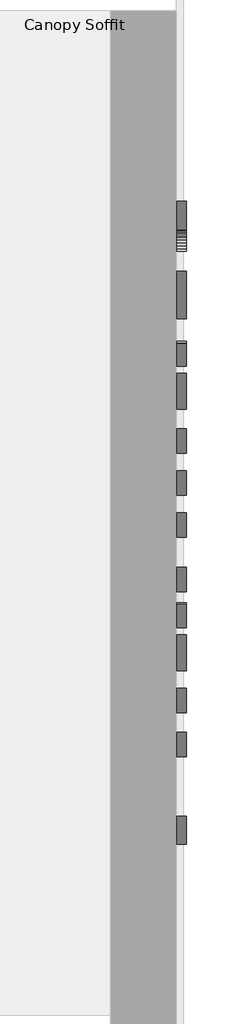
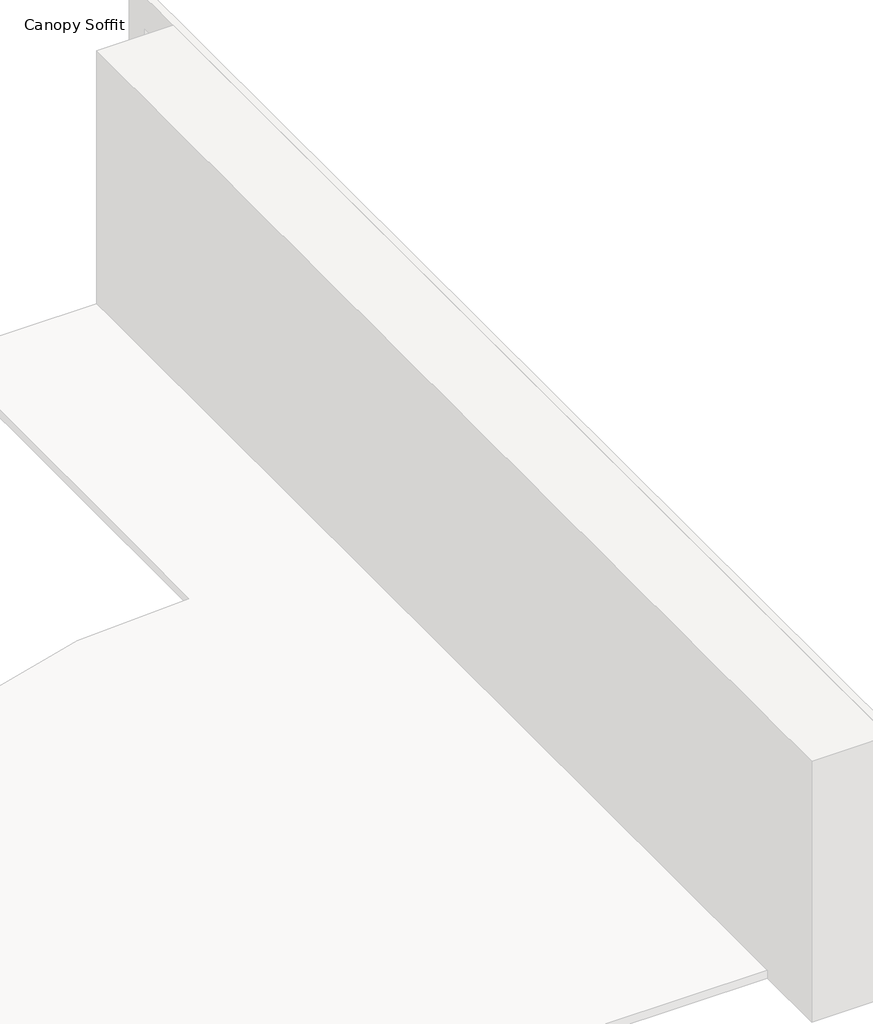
# One storey, part 2 of 2: 1 proxy.
"""IFC4 building model written with IfcOpenShell, lengths in millimetres."""

from ifc_helpers import new_model, si_unit, frame, origin, place, context, project, spatial, polyline, outline, extrude, element, save

model = new_model("IFC4")

# Units and contexts
model_context = context("Model", 3, world=origin())
ifc_project = project(units=[si_unit("LENGTHUNIT", "METRE", prefix="MILLI")], contexts=[model_context])

# Site, building, storey
site = spatial("IfcSite", under=ifc_project)
building = spatial("IfcBuilding", under=site)
storey = spatial("IfcBuildingStorey", under=building, Name="Canopy Soffit", Elevation=4572.0)

# Proxy
placement = place(None, origin())
element("IfcBuildingElementProxy", 1, Name="big", ObjectType="big", at=placement, inside=storey, context=model_context, shape_type="SweptSolid", body=[
    extrude(outline(polyline([(-13815.1592302, 7081.4539876), (-13114.5433623, 7081.4539876), (-13059.1440865, 7079.584566), (-13007.3325232, 7073.976301), (-12959.1086725, 7064.6291927), (-12914.4725344, 7051.5432411), (-12873.4241089, 7034.7184463), (-12835.9633959, 7014.1548081), (-12802.0903954, 6989.8523266), (-12771.8051075, 6961.8110018), (-12745.0943904, 6930.3265242), (-12721.9451022, 6895.6945846), (-12702.357243, 6857.9151828), (-12686.3308127, 6816.988319), (-12673.8658114, 6772.913993), (-12664.962239, 6725.6922049), (-12659.6200956, 6675.3229547), (-12657.8393811, 6621.8062423), (-12659.76137, 6566.5876663), (-12665.5273366, 6514.4771271), (-12675.137281, 6465.4746245), (-12688.5912031, 6419.5801586), (-12705.8891029, 6376.7937294), (-12727.0309805, 6337.115337), (-12752.0168358, 6300.5449812), (-12780.8466689, 6267.0826621), (-12813.6190432, 6237.1686302), (-12850.4325223, 6211.2431359), (-12891.2871063, 6189.3061792), (-12936.182795, 6171.35776), (-12985.1195886, 6157.3978785), (-13038.097487, 6147.4265345), (-13095.1164901, 6141.4437281), (-13156.1765981, 6139.4494593), (-13384.5285887, 6139.4494593), (-13384.5285887, 5708.8188178), (-13815.1592302, 5708.8188178), (-13815.1592302, 7081.4539876)]), holes=[polyline([(-13384.5285887, 6462.4224404), (-13289.9075981, 6462.4224404), (-13238.3391582, 6464.9982341), (-13195.0763387, 6472.725615), (-13160.1191394, 6485.6045831), (-13133.4675604, 6503.6351386), (-13113.7811376, 6525.6870861), (-13099.7194071, 6550.6302305), (-13091.2823687, 6578.4645719), (-13088.4700226, 6609.1901103), (-13090.9143982, 6639.1402821), (-13098.247525, 6666.7512128), (-13110.4694029, 6692.0229024), (-13127.5800321, 6714.9553508), (-13151.4455486, 6733.9978252), (-13183.9320887, 6747.5995926), (-13225.0396524, 6755.760653), (-13274.7682396, 6758.4810065), (-13384.5285887, 6758.4810065), (-13384.5285887, 6462.4224404)])]), frame((21878.1272279, 0.0, 0.0), z_axis=(1.0, 0.0, 0.0), x_axis=(0.0, 1.0, 0.0)), (0.0, 0.0, 1.0), 152.4),
    extrude(outline(polyline([(-12469.4384755, 7081.4539876), (-12092.6366641, 7081.4539876), (-12092.6366641, 6582.2756952), (-12053.776349, 6619.5721356), (-12014.9948847, 6651.1387494), (-11976.2922712, 6676.9755365), (-11937.6685085, 6697.082497), (-11897.3363113, 6712.1692883), (-11853.5083941, 6722.9455678), (-11806.184757, 6729.4113355), (-11755.3654, 6731.5665914), (-11681.4953183, 6725.6264959), (-11647.6650288, 6718.2013765), (-11615.9045733, 6707.8062093), (-11586.2139521, 6694.4409944), (-11558.593165, 6678.1057317), (-11533.0422121, 6658.8004213), (-11509.5610934, 6636.5250631), (-11488.5177793, 6611.1745227), (-11470.2802405, 6582.6436657), (-11454.8484769, 6550.932492), (-11442.2224884, 6516.0410018), (-11432.4022752, 6477.9691949), (-11425.3878372, 6436.7170713), (-11419.7762868, 6344.6718744), (-11419.7762868, 5708.8188178), (-11796.5780981, 5708.8188178), (-11796.5780981, 6262.2464782), (-11798.8122048, 6306.1006789), (-11805.514525, 6343.0422907), (-11816.6850586, 6373.0713134), (-11832.3238057, 6396.187747), (-11851.9839448, 6413.3903688), (-11875.2186547, 6425.6779558), (-11902.0279354, 6433.050508), (-11932.4117868, 6435.5080253), (-11966.4622016, 6432.1962907), (-11997.1220309, 6422.2610867), (-12024.3912747, 6405.7024133), (-12048.269933, 6382.5202706), (-12067.6803779, 6350.743388), (-12081.5449814, 6308.4004947), (-12089.8637434, 6255.4915908), (-12092.6366641, 6192.0166763), (-12092.6366641, 5708.8188178), (-12469.4384755, 5708.8188178), (-12469.4384755, 7081.4539876)])), frame((21878.1272279, 0.0, 0.0), z_axis=(1.0, 0.0, 0.0), x_axis=(0.0, 1.0, 0.0)), (0.0, 0.0, 1.0), 152.4),
    extrude(outline(polyline([(-10827.6591547, 6354.7647801), (-11204.460966, 6381.6791952), (-11193.2378652, 6433.4184785), (-11179.7543741, 6479.2965171), (-11164.0104926, 6519.313311), (-11146.0062207, 6553.4688603), (-11124.7690651, 6583.6818682), (-11099.3265321, 6611.8710383), (-11069.6786217, 6638.0363706), (-11035.825334, 6662.177865), (-11007.7412983, 6677.6720522), (-10974.794795, 6691.3526704), (-10894.3143858, 6713.2731999), (-10800.3767691, 6726.9932435), (-10698.9746075, 6731.5665914), (-10546.950216, 6726.7304074), (-10483.3964507, 6720.6851775), (-10428.1483057, 6712.2218555), (-10379.181943, 6699.9474104), (-10334.473525, 6682.4688107), (-10294.0230515, 6659.7860566), (-10257.8305226, 6631.899148), (-10235.1346267, 6608.4541692), (-10214.9882408, 6580.5935442), (-10197.3913649, 6548.317273), (-10182.3439991, 6511.6253555), (-10161.6850828, 6435.6131598), (-10156.5203537, 6398.9475259), (-10154.7987774, 6363.1755348), (-10154.7987774, 5921.6109121), (-10152.5909542, 5858.6353862), (-10145.9674849, 5811.0094876), (-10131.7743363, 5765.4862777), (-10106.8574755, 5708.8188178), (-10468.0993906, 5708.8188178), (-10496.4856877, 5783.8848036), (-10509.7326264, 5864.8383178), (-10545.8463045, 5822.4428573), (-10581.8548481, 5786.5131645), (-10617.7582573, 5757.0492394), (-10653.5565321, 5734.0510819), (-10704.5204489, 5711.2369098), (-10759.4269071, 5694.9410725), (-10818.2759065, 5685.1635702), (-10881.0674472, 5681.9044027), (-10961.8895433, 5686.9508555), (-11032.3558976, 5702.090214), (-11063.7056717, 5713.4447329), (-11092.4665103, 5727.3224782), (-11118.6384134, 5743.7234499), (-11142.2213811, 5762.647648), (-11181.2262561, 5805.3847954), (-11209.0868811, 5852.8529923), (-11225.8032561, 5905.0522388), (-11231.3753811, 5961.9825348), (-11227.353989, 6015.0228567), (-11215.2898127, 6063.1218603), (-11195.1828522, 6106.2795454), (-11167.0331075, 6144.4959121), (-11128.264785, 6177.9549457), (-11075.8815533, 6206.8406315), (-11009.8834124, 6231.1529693), (-10930.2703623, 6250.8919593), (-10759.6897432, 6287.0056374), (-10661.7570179, 6310.3980489), (-10598.4135215, 6330.0056209), (-10531.6005887, 6354.7647801), (-10533.2301724, 6382.3888526), (-10538.1189236, 6405.5447117), (-10546.2668422, 6424.2323573), (-10557.6739283, 6438.4517895), (-10573.1549737, 6448.9389493), (-10593.5247703, 6456.4297777), (-10618.783318, 6460.9242748), (-10648.930617, 6462.4224404), (-10688.3297461, 6460.7140059), (-10722.4195863, 6455.5887022), (-10751.2001376, 6447.0465295), (-10774.6714, 6435.0874876), (-10790.2838634, 6422.0245342), (-10804.3193104, 6404.2830985), (-10816.7777408, 6381.8631804), (-10827.6591547, 6354.7647801)]), holes=[polyline([(-10531.6005887, 6166.3638744), (-10607.1922467, 6146.1780631), (-10685.9379377, 6128.5154782), (-10775.3022066, 6105.1756338), (-10805.0026842, 6093.6634133), (-10824.7153906, 6082.2563272), (-10837.778344, 6070.0870165), (-10847.109025, 6057.1291975), (-10852.7074336, 6043.3828703), (-10854.5735698, 6028.8480348), (-10852.7205754, 6012.4076377), (-10847.1615922, 5997.5705407), (-10837.8966202, 5984.3367438), (-10824.9256594, 5972.706247), (-10808.3801279, 5963.2310062), (-10788.3914436, 5956.462977), (-10738.084617, 5951.0485536), (-10680.1029766, 5956.9360819), (-10626.4318481, 5974.5986669), (-10582.3805203, 6000.7245737), (-10565.953265, 6015.7193723), (-10553.2582821, 6032.0020678), (-10543.7830412, 6050.2034667), (-10537.015012, 6070.9543756), (-10531.6005887, 6120.1047235), (-10531.6005887, 6166.3638744)])]), frame((21878.1272279, 0.0, 0.0), z_axis=(1.0, 0.0, 0.0), x_axis=(0.0, 1.0, 0.0)), (0.0, 0.0, 1.0), 152.4),
    extrude(outline(polyline([(-9939.4834566, 6704.6521763), (-9588.3344472, 6704.6521763), (-9588.3344472, 6544.4272989), (-9562.2479657, 6593.6696394), (-9535.714663, 6634.5800761), (-9508.7345389, 6667.1586088), (-9481.3075934, 6691.4052376), (-9452.0407953, 6708.9758299), (-9419.5411134, 6721.5262529), (-9383.8085477, 6729.0565068), (-9344.8430981, 6731.5665914), (-9301.3700097, 6728.0445878), (-9255.899367, 6717.4785772), (-9208.43117, 6699.8685595), (-9158.9654189, 6675.2145348), (-9277.9775981, 6407.331997), (-9338.9555698, 6428.4640183), (-9385.6352585, 6435.5080253), (-9421.3546824, 6431.6180513), (-9452.8161618, 6419.9481291), (-9480.0196966, 6400.4982588), (-9502.9652868, 6373.2684404), (-9516.9613083, 6348.9101063), (-9529.0911936, 6319.7812972), (-9547.7525557, 6247.2122541), (-9558.9493729, 6155.5613113), (-9562.6816453, 6044.8284687), (-9562.6816453, 5708.8188178), (-9939.4834566, 5708.8188178), (-9939.4834566, 6704.6521763)])), frame((21878.1272279, 0.0, 0.0), z_axis=(1.0, 0.0, 0.0), x_axis=(0.0, 1.0, 0.0)), (0.0, 0.0, 1.0), 152.4),
    extrude(outline(polyline([(-9105.1365887, 6704.6521763), (-8753.9875792, 6704.6521763), (-8753.9875792, 6564.1925725), (-8715.8500633, 6606.3251969), (-8677.5548457, 6641.8869192), (-8639.1019265, 6670.8777394), (-8600.4913057, 6693.2976574), (-8559.7779961, 6710.040316), (-8515.0170108, 6721.9993579), (-8466.2083499, 6729.174783), (-8413.3520132, 6731.5665914), (-8357.5519124, 6728.9382305), (-8307.9021759, 6721.053148), (-8264.4028039, 6707.9113437), (-8227.0537962, 6689.5128178), (-8194.3307037, 6665.9101374), (-8164.7090769, 6637.1558697), (-8138.1889159, 6603.2500147), (-8114.7702207, 6564.1925725), (-8071.3759831, 6608.8878488), (-8029.9267325, 6645.8294605), (-7990.422469, 6675.0174077), (-7952.8631924, 6696.4516904), (-7914.1474371, 6711.8144596), (-7871.1737373, 6722.7878661), (-7823.9420928, 6729.3719101), (-7772.4525038, 6731.5665914), (-7697.715063, 6725.5870705), (-7663.5890829, 6718.1126693), (-7631.6249295, 6707.6485077), (-7601.8226029, 6694.1945856), (-7574.1821031, 6677.750903), (-7548.7034301, 6658.31746), (-7525.386584, 6635.8942565), (-7504.540397, 6610.2973073), (-7486.4737016, 6581.3426271), (-7471.1864978, 6549.0302159), (-7458.6787856, 6513.3600737), (-7448.950565, 6474.3322005), (-7442.001836, 6431.9465964), (-7436.4428528, 6337.1021952), (-7436.4428528, 5708.8188178), (-7813.2446641, 5708.8188178), (-7813.2446641, 6282.0117518), (-7814.8742479, 6313.8937689), (-7819.7629991, 6341.4127069), (-7827.9109177, 6364.568566), (-7839.3180038, 6383.3613461), (-7859.4249643, 6406.1755183), (-7881.8974495, 6422.4713555), (-7906.7354595, 6432.2488579), (-7933.9389943, 6435.5080253), (-7965.7421606, 6432.4328432), (-7994.2861594, 6423.2072966), (-8019.5709908, 6407.8313856), (-8041.5966547, 6386.3051103), (-8059.4432249, 6357.9713803), (-8072.190775, 6322.1731055), (-8079.8393051, 6278.910286), (-8082.3888151, 6228.1829216), (-8082.3888151, 5708.8188178), (-8459.1906264, 5708.8188178), (-8459.1906264, 6261.8259404), (-8461.0830462, 6317.2317871), (-8466.7603057, 6351.4004782), (-8483.3715462, 6385.5691692), (-8508.8140792, 6412.3784499), (-8541.1954849, 6429.7256315), (-8578.6233434, 6435.5080253), (-8609.9534047, 6432.3802759), (-8638.3397019, 6422.9970277), (-8663.7822349, 6407.3582807), (-8686.2810038, 6385.4640348), (-8704.6795297, 6356.4206474), (-8717.821334, 6319.3344758), (-8725.7064165, 6274.20552), (-8728.3347774, 6221.0337801), (-8728.3347774, 5708.8188178), (-9105.1365887, 5708.8188178), (-9105.1365887, 6704.6521763)])), frame((21878.1272279, 0.0, 0.0), z_axis=(1.0, 0.0, 0.0), x_axis=(0.0, 1.0, 0.0)), (0.0, 0.0, 1.0), 152.4),
    extrude(outline(polyline([(-6817.4113057, 6354.7647801), (-7194.213117, 6381.6791952), (-7182.9900162, 6433.4184785), (-7169.506525, 6479.2965171), (-7153.7626435, 6519.313311), (-7135.7583717, 6553.4688603), (-7114.521216, 6583.6818682), (-7089.078683, 6611.8710383), (-7059.4307726, 6638.0363706), (-7025.5774849, 6662.177865), (-6997.4934492, 6677.6720522), (-6964.546946, 6691.3526704), (-6884.0665368, 6713.2731999), (-6790.12892, 6726.9932435), (-6688.7267585, 6731.5665914), (-6536.702367, 6726.7304074), (-6473.1486016, 6720.6851775), (-6417.9004566, 6712.2218555), (-6368.934094, 6699.9474104), (-6324.2256759, 6682.4688107), (-6283.7752025, 6659.7860566), (-6247.5826736, 6631.899148), (-6224.8867776, 6608.4541692), (-6204.7403917, 6580.5935442), (-6187.1435159, 6548.317273), (-6172.09615, 6511.6253555), (-6151.4372337, 6435.6131598), (-6146.2725047, 6398.9475259), (-6144.5509283, 6363.1755348), (-6144.5509283, 5921.6109121), (-6142.3431052, 5858.6353862), (-6135.7196358, 5811.0094876), (-6121.5264873, 5765.4862777), (-6096.6096264, 5708.8188178), (-6457.8515415, 5708.8188178), (-6486.2378387, 5783.8848036), (-6499.4847774, 5864.8383178), (-6535.5984554, 5822.4428573), (-6571.6069991, 5786.5131645), (-6607.5104082, 5757.0492394), (-6643.308683, 5734.0510819), (-6694.2725999, 5711.2369098), (-6749.179058, 5694.9410725), (-6808.0280574, 5685.1635702), (-6870.8195981, 5681.9044027), (-6951.6416942, 5686.9508555), (-7022.1080486, 5702.090214), (-7053.4578226, 5713.4447329), (-7082.2186612, 5727.3224782), (-7108.3905644, 5743.7234499), (-7131.9735321, 5762.647648), (-7170.9784071, 5805.3847954), (-7198.8390321, 5852.8529923), (-7215.5554071, 5905.0522388), (-7221.1275321, 5961.9825348), (-7217.10614, 6015.0228567), (-7205.0419637, 6063.1218603), (-7184.9350032, 6106.2795454), (-7156.7852585, 6144.4959121), (-7118.016936, 6177.9549457), (-7065.6337042, 6206.8406315), (-6999.6355633, 6231.1529693), (-6920.0225132, 6250.8919593), (-6749.4418941, 6287.0056374), (-6651.5091689, 6310.3980489), (-6588.1656724, 6330.0056209), (-6521.3527396, 6354.7647801), (-6522.9823233, 6382.3888526), (-6527.8710745, 6405.5447117), (-6536.0189932, 6424.2323573), (-6547.4260792, 6438.4517895), (-6562.9071246, 6448.9389493), (-6583.2769212, 6456.4297777), (-6608.535469, 6460.9242748), (-6638.6827679, 6462.4224404), (-6678.081897, 6460.7140059), (-6712.1717373, 6455.5887022), (-6740.9522886, 6447.0465295), (-6764.4235509, 6435.0874876), (-6780.0360144, 6422.0245342), (-6794.0714613, 6404.2830985), (-6806.5298917, 6381.8631804), (-6817.4113057, 6354.7647801)]), holes=[polyline([(-6521.3527396, 6166.3638744), (-6596.9443976, 6146.1780631), (-6675.6900887, 6128.5154782), (-6765.0543575, 6105.1756338), (-6794.7548351, 6093.6634133), (-6814.4675415, 6082.2563272), (-6827.5304949, 6070.0870165), (-6836.8611759, 6057.1291975), (-6842.4595845, 6043.3828703), (-6844.3257207, 6028.8480348), (-6842.4727264, 6012.4076377), (-6836.9137432, 5997.5705407), (-6827.6487712, 5984.3367438), (-6814.6778104, 5972.706247), (-6798.1322788, 5963.2310062), (-6778.1435946, 5956.462977), (-6727.8367679, 5951.0485536), (-6669.8551276, 5956.9360819), (-6616.1839991, 5974.5986669), (-6572.1326712, 6000.7245737), (-6555.7054159, 6015.7193723), (-6543.010433, 6032.0020678), (-6533.5351922, 6050.2034667), (-6526.767163, 6070.9543756), (-6521.3527396, 6120.1047235), (-6521.3527396, 6166.3638744)])]), frame((21878.1272279, 0.0, 0.0), z_axis=(1.0, 0.0, 0.0), x_axis=(0.0, 1.0, 0.0)), (0.0, 0.0, 1.0), 152.4),
    extrude(outline(polyline([(-5202.5464, 6085.6206291), (-4825.7445887, 6058.706214), (-4842.8289342, 6003.0375312), (-4864.6443292, 5951.2588225), (-4891.1907738, 5903.3700878), (-4922.4682679, 5859.3713272), (-4958.4373861, 5819.6567948), (-4999.0587031, 5784.6207447), (-5044.3322187, 5754.2631769), (-5094.257933, 5728.5840914), (-5150.044892, 5708.1617276), (-5212.9021417, 5693.5743249), (-5282.8296821, 5684.8218832), (-5359.8275132, 5681.9044027), (-5434.3678269, 5683.7705389), (-5502.3898057, 5689.3689475), (-5563.8934495, 5698.6996285), (-5618.8787585, 5711.7625819), (-5668.8044728, 5728.9783455), (-5715.1293328, 5750.7674569), (-5757.8533384, 5777.1299163), (-5796.9764896, 5808.0657235), (-5832.2753758, 5842.7469449), (-5863.5265863, 5880.3456468), (-5890.7301211, 5920.8618293), (-5913.8859802, 5964.2954923), (-5932.3764988, 6012.854459), (-5945.584012, 6068.7465525), (-5953.50852, 6131.9717727), (-5956.1500226, 6202.5301197), (-5952.9434224, 6276.6761792), (-5943.3236217, 6344.3564711), (-5927.2906205, 6405.5709953), (-5904.8444189, 6460.3197518), (-5884.4089133, 6497.1825127), (-5860.5302549, 6532.0740029), (-5833.2084439, 6564.9942226), (-5802.4434802, 6595.9431716), (-5769.7335294, 6624.0009236), (-5736.5767573, 6648.2475525), (-5702.9731639, 6668.6830581), (-5668.9227491, 6685.3074404), (-5610.8096907, 6705.545819), (-5544.9692514, 6720.0018036), (-5471.4014312, 6728.6753944), (-5390.1062302, 6731.5665914), (-5278.3614687, 6725.9944664), (-5227.7819496, 6719.0293101), (-5180.7310049, 6709.2780914), (-5137.2086347, 6696.7408101), (-5097.214839, 6681.4174664), (-5060.7496176, 6663.3080601), (-5027.8129707, 6642.4125914), (-4997.8003753, 6618.8361946), (-4970.1073083, 6592.6840041), (-4944.7337698, 6563.95602), (-4921.6797597, 6532.6522423), (-4900.945278, 6498.772671), (-4882.5303248, 6462.317306), (-4852.6590038, 6381.6791952), (-5229.4608151, 6354.7647801), (-5238.5549436, 6379.8262008), (-5250.6979707, 6401.6021704), (-5265.8898965, 6420.092689), (-5284.1307207, 6435.2977565), (-5305.6044289, 6447.1648057), (-5330.4950061, 6455.6412694), (-5358.8024525, 6460.7271477), (-5390.5267679, 6462.4224404), (-5430.7669725, 6458.2827721), (-5466.9595014, 6445.8637671), (-5499.1043546, 6425.1654254), (-5527.2015321, 6396.187747), (-5550.0157042, 6358.799314), (-5566.3115415, 6312.8687081), (-5576.0890439, 6258.3959295), (-5579.3482113, 6195.3809782), (-5575.9970512, 6139.0552052), (-5565.943571, 6089.9311409), (-5549.1877706, 6048.0087854), (-5525.72965, 6013.2881386), (-5497.0936585, 5986.0583202), (-5464.8042455, 5966.6084499), (-5428.8614109, 5954.9385277), (-5389.2651547, 5951.0485536), (-5355.9638228, 5953.1118169), (-5325.4485533, 5959.3016067), (-5297.7193463, 5969.617923), (-5272.7762019, 5984.0607659), (-5250.7242544, 6002.787837), (-5231.6686382, 6025.9568378), (-5215.6093534, 6053.5677686), (-5202.5464, 6085.6206291)])), frame((21878.1272279, 0.0, 0.0), z_axis=(1.0, 0.0, 0.0), x_axis=(0.0, 1.0, 0.0)), (0.0, 0.0, 1.0), 152.4),
    extrude(outline(polyline([(-4771.9157585, 6704.6521763), (-4366.0968434, 6704.6521763), (-4166.3414189, 6041.8847046), (-3985.0896547, 6704.6521763), (-3614.5959094, 6704.6521763), (-3998.9674, 5638.1684782), (-4032.5841353, 5555.269977), (-4066.568841, 5486.9851621), (-4100.9215173, 5433.3140336), (-4135.6421641, 5394.2565914), (-4161.8534927, 5373.3611226), (-4191.2845633, 5355.2517164), (-4223.935376, 5339.9283726), (-4259.8059307, 5327.3910914), (-4298.8962274, 5317.6398726), (-4341.2062662, 5310.6747164), (-4435.4855698, 5305.1025914), (-4539.6737939, 5310.8849853), (-4688.2287491, 5328.2321669), (-4718.0869283, 5599.0584687), (-4675.744035, 5588.2033384), (-4631.1407514, 5580.4496739), (-4584.2770775, 5575.7974752), (-4535.1530132, 5574.2467423), (-4503.1132945, 5575.9683187), (-4474.2801759, 5581.1330478), (-4448.6536577, 5589.7409295), (-4426.2337396, 5601.791964), (-4406.2056299, 5618.2586447), (-4387.7545368, 5640.1134652), (-4370.8804601, 5667.3564254), (-4355.5834, 5699.9875253), (-4771.9157585, 6704.6521763)])), frame((21878.1272279, 0.0, 0.0), z_axis=(1.0, 0.0, 0.0), x_axis=(0.0, 1.0, 0.0)), (0.0, 0.0, 1.0), 152.4),
])

save(model, "model.ifc")
